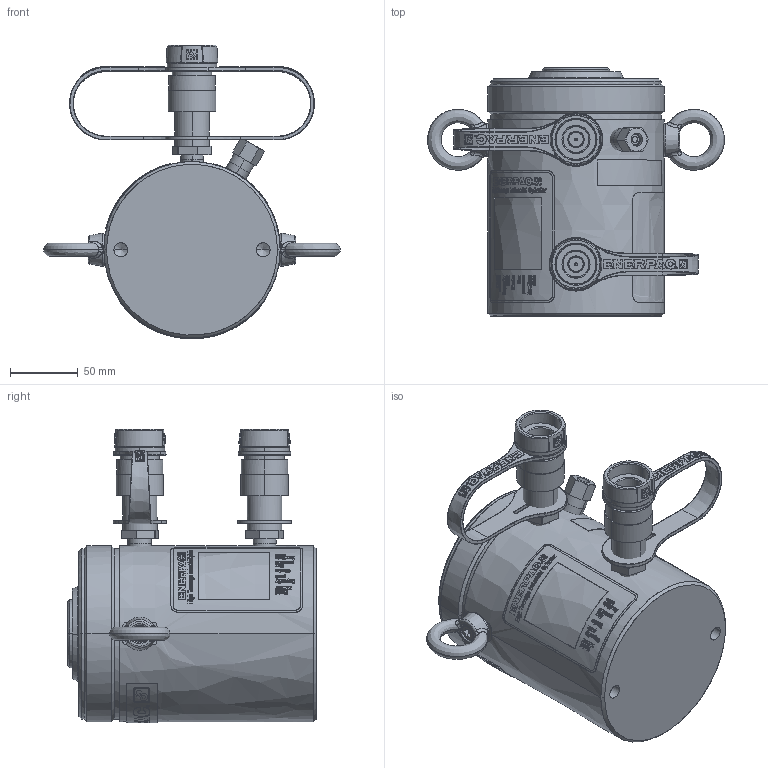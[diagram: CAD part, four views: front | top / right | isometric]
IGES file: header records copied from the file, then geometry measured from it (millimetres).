
Start section:  PTC IGES file: hcr502.igs
Global section: file name: hcr502.igs; native system: Creo Parametric by PTC Inc.; preprocessor: 2015290; author: Akhilesh.Subrahmanya; organization: Unknown; date: 20170629.114020; units: millimetre
Bounding box: 218.99 x 183 x 216.57 mm (x, y, z)
Surface area: 273916.7 mm2 (no closed solid volume)
Topology: 0 solids, 0 shells, 1267 faces, 9190 edges, 9175 vertices
Faces by surface type: bspline 635, revolution 595, extrusion 37
